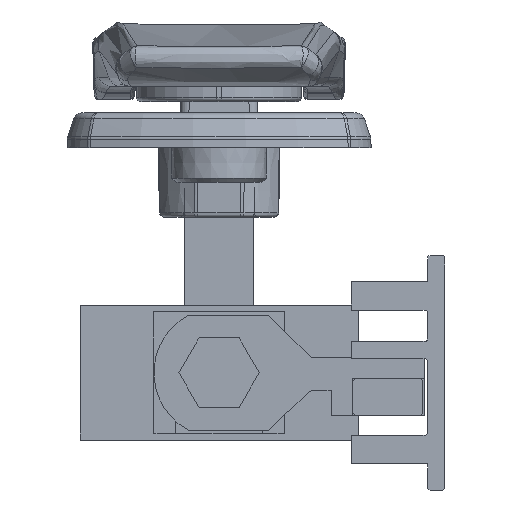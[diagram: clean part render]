
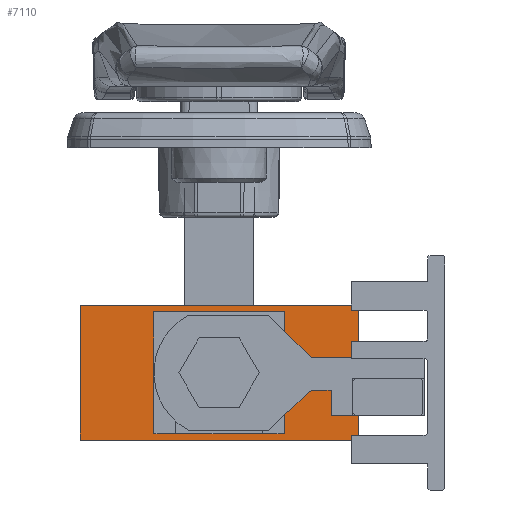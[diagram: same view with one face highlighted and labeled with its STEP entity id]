
A CAD part, front view. The second image highlights one B-rep face of the part: STEP entity #7110.
In plain terms, the highlighted planar face has unit normal (0, -1, 0).
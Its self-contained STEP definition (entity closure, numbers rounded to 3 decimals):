
#21 = ORIENTED_EDGE ( 'NONE', *, *, #7643, .F. ) ;
#1338 = PLANE ( 'NONE',  #10174 ) ;
#2036 = CARTESIAN_POINT ( 'NONE',  ( 7., -199.25, 6.25 ) ) ;
#2092 = VECTOR ( 'NONE', #28192, 1000. ) ;
#2188 = VERTEX_POINT ( 'NONE', #24937 ) ;
#3205 = LINE ( 'NONE', #10825, #30823 ) ;
#3724 = EDGE_LOOP ( 'NONE', ( #16001, #26524, #15461, #22091 ) ) ;
#4803 = LINE ( 'NONE', #17520, #24812 ) ;
#5374 = CARTESIAN_POINT ( 'NONE',  ( -7., -199.25, -6.25 ) ) ;
#5508 = EDGE_CURVE ( 'NONE', #23067, #12871, #26153, .T. ) ;
#5997 = ORIENTED_EDGE ( 'NONE', *, *, #21178, .T. ) ;
#6008 = DIRECTION ( 'NONE',  ( 0., 0., -1. ) ) ;
#6442 = CARTESIAN_POINT ( 'NONE',  ( 7., -199.25, 6.25 ) ) ;
#6492 = VECTOR ( 'NONE', #29594, 1000. ) ;
#7110 = ADVANCED_FACE ( 'NONE', ( #8963, #13522 ), #1338, .F. ) ;
#7564 = VECTOR ( 'NONE', #22760, 1000. ) ;
#7643 = EDGE_CURVE ( 'NONE', #13071, #2188, #4803, .T. ) ;
#7744 = ORIENTED_EDGE ( 'NONE', *, *, #24418, .F. ) ;
#8256 = ORIENTED_EDGE ( 'NONE', *, *, #22868, .T. ) ;
#8316 = DIRECTION ( 'NONE',  ( 0., 1., 0. ) ) ;
#8963 = FACE_BOUND ( 'NONE', #3724, .T. ) ;
#9042 = VECTOR ( 'NONE', #12131, 1000. ) ;
#10174 = AXIS2_PLACEMENT_3D ( 'NONE', #21224, #8316, #18924 ) ;
#10825 = CARTESIAN_POINT ( 'NONE',  ( -16., -199.25, 7.75 ) ) ;
#10901 = EDGE_LOOP ( 'NONE', ( #5997, #7744, #21, #8256 ) ) ;
#11064 = VERTEX_POINT ( 'NONE', #19102 ) ;
#11277 = CARTESIAN_POINT ( 'NONE',  ( 7., -199.25, 6.25 ) ) ;
#11749 = EDGE_CURVE ( 'NONE', #28005, #23067, #24372, .T. ) ;
#12131 = DIRECTION ( 'NONE',  ( 1., 0., 0. ) ) ;
#12260 = VERTEX_POINT ( 'NONE', #5374 ) ;
#12871 = VERTEX_POINT ( 'NONE', #22904 ) ;
#13071 = VERTEX_POINT ( 'NONE', #16532 ) ;
#13522 = FACE_OUTER_BOUND ( 'NONE', #10901, .T. ) ;
#14621 = EDGE_CURVE ( 'NONE', #12871, #12260, #23969, .T. ) ;
#14897 = CARTESIAN_POINT ( 'NONE',  ( -16., -199.25, -7.75 ) ) ;
#15461 = ORIENTED_EDGE ( 'NONE', *, *, #11749, .F. ) ;
#15612 = LINE ( 'NONE', #20030, #2092 ) ;
#16001 = ORIENTED_EDGE ( 'NONE', *, *, #14621, .F. ) ;
#16532 = CARTESIAN_POINT ( 'NONE',  ( -16., -199.25, 7.75 ) ) ;
#17520 = CARTESIAN_POINT ( 'NONE',  ( -16., -199.25, 7.75 ) ) ;
#18924 = DIRECTION ( 'NONE',  ( 0., 0., 1. ) ) ;
#19102 = CARTESIAN_POINT ( 'NONE',  ( -16., -199.25, -7.75 ) ) ;
#19480 = CARTESIAN_POINT ( 'NONE',  ( 7., -199.25, -6.25 ) ) ;
#19537 = CARTESIAN_POINT ( 'NONE',  ( 16., -199.25, -7.75 ) ) ;
#20030 = CARTESIAN_POINT ( 'NONE',  ( -7., -199.25, -6.25 ) ) ;
#20456 = CARTESIAN_POINT ( 'NONE',  ( 16., -199.25, 7.75 ) ) ;
#21178 = EDGE_CURVE ( 'NONE', #11064, #21963, #25215, .T. ) ;
#21224 = CARTESIAN_POINT ( 'NONE',  ( -16., -199.25, 7.75 ) ) ;
#21963 = VERTEX_POINT ( 'NONE', #19537 ) ;
#22091 = ORIENTED_EDGE ( 'NONE', *, *, #28312, .F. ) ;
#22187 = VECTOR ( 'NONE', #25532, 1000. ) ;
#22760 = DIRECTION ( 'NONE',  ( -1., 0., 0. ) ) ;
#22868 = EDGE_CURVE ( 'NONE', #13071, #11064, #3205, .T. ) ;
#22904 = CARTESIAN_POINT ( 'NONE',  ( -7., -199.25, 6.25 ) ) ;
#23067 = VERTEX_POINT ( 'NONE', #6442 ) ;
#23969 = LINE ( 'NONE', #28883, #25896 ) ;
#24372 = LINE ( 'NONE', #2036, #6492 ) ;
#24418 = EDGE_CURVE ( 'NONE', #2188, #21963, #30886, .T. ) ;
#24812 = VECTOR ( 'NONE', #25040, 1000. ) ;
#24937 = CARTESIAN_POINT ( 'NONE',  ( 16., -199.25, 7.75 ) ) ;
#25040 = DIRECTION ( 'NONE',  ( 1., 0., 0. ) ) ;
#25215 = LINE ( 'NONE', #14897, #9042 ) ;
#25532 = DIRECTION ( 'NONE',  ( 0., 0., -1. ) ) ;
#25896 = VECTOR ( 'NONE', #6008, 1000. ) ;
#26153 = LINE ( 'NONE', #11277, #7564 ) ;
#26524 = ORIENTED_EDGE ( 'NONE', *, *, #5508, .F. ) ;
#28005 = VERTEX_POINT ( 'NONE', #19480 ) ;
#28192 = DIRECTION ( 'NONE',  ( 1., 0., 0. ) ) ;
#28312 = EDGE_CURVE ( 'NONE', #12260, #28005, #15612, .T. ) ;
#28883 = CARTESIAN_POINT ( 'NONE',  ( -7., -199.25, -6.25 ) ) ;
#29594 = DIRECTION ( 'NONE',  ( 0., 0., 1. ) ) ;
#30446 = DIRECTION ( 'NONE',  ( 0., 0., -1. ) ) ;
#30823 = VECTOR ( 'NONE', #30446, 1000. ) ;
#30886 = LINE ( 'NONE', #20456, #22187 ) ;
